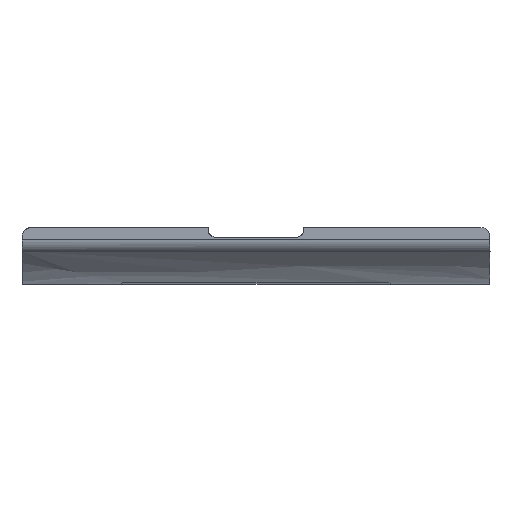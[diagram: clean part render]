
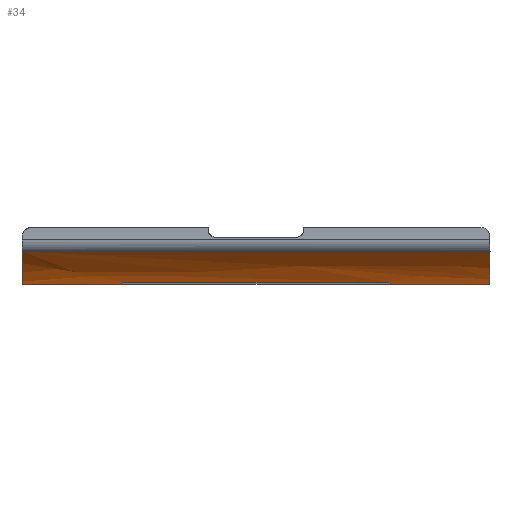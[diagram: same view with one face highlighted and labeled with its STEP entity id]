
A CAD part, front view. The second image highlights one B-rep face of the part: STEP entity #34.
In plain terms, the highlighted free-form (B-spline) face has degree [2, 1] with [9, 2] control points.
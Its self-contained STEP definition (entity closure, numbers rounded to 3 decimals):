
#34=ADVANCED_FACE('',(#132),#1594,.T.);
#132=FACE_OUTER_BOUND('',#230,.T.);
#230=EDGE_LOOP('',(#477,#478,#479,#480,#481,#482,#483,#484,#485,#486,#487));
#477=ORIENTED_EDGE('',*,*,#959,.T.);
#478=ORIENTED_EDGE('',*,*,#1117,.T.);
#479=ORIENTED_EDGE('',*,*,#973,.T.);
#480=ORIENTED_EDGE('',*,*,#943,.F.);
#481=ORIENTED_EDGE('',*,*,#942,.F.);
#482=ORIENTED_EDGE('',*,*,#957,.F.);
#483=ORIENTED_EDGE('',*,*,#960,.F.);
#484=ORIENTED_EDGE('',*,*,#966,.T.);
#485=ORIENTED_EDGE('',*,*,#1121,.T.);
#486=ORIENTED_EDGE('',*,*,#961,.T.);
#487=ORIENTED_EDGE('',*,*,#962,.T.);
#942=EDGE_CURVE('',#1493,#1494,#1284,.T.);
#943=EDGE_CURVE('',#1494,#1489,#1285,.T.);
#957=EDGE_CURVE('',#1490,#1493,#1148,.T.);
#959=EDGE_CURVE('',#1504,#1505,#1298,.T.);
#960=EDGE_CURVE('',#1488,#1490,#1149,.T.);
#961=EDGE_CURVE('',#1508,#1509,#1299,.T.);
#962=EDGE_CURVE('',#1509,#1504,#1150,.T.);
#966=EDGE_CURVE('',#1488,#1507,#1303,.T.);
#973=EDGE_CURVE('',#1506,#1489,#1308,.T.);
#1117=EDGE_CURVE('',#1505,#1506,#1204,.T.);
#1121=EDGE_CURVE('',#1507,#1508,#1206,.T.);
#1148=(
BOUNDED_CURVE()
B_SPLINE_CURVE(1,(#3255,#3256),.UNSPECIFIED.,.F.,.F.)
B_SPLINE_CURVE_WITH_KNOTS((2,2),(-97.8,0.),.UNSPECIFIED.)
CURVE()
GEOMETRIC_REPRESENTATION_ITEM()
RATIONAL_B_SPLINE_CURVE((1.,1.))
REPRESENTATION_ITEM('')
);
#1149=(
BOUNDED_CURVE()
B_SPLINE_CURVE(2,(#3271,#3272,#3273),.UNSPECIFIED.,.F.,.F.)
B_SPLINE_CURVE_WITH_KNOTS((3,3),(-0.026,0.),
 .UNSPECIFIED.)
CURVE()
GEOMETRIC_REPRESENTATION_ITEM()
RATIONAL_B_SPLINE_CURVE((1.,0.965,1.))
REPRESENTATION_ITEM('')
);
#1150=(
BOUNDED_CURVE()
B_SPLINE_CURVE(1,(#3284,#3285),.UNSPECIFIED.,.F.,.F.)
B_SPLINE_CURVE_WITH_KNOTS((2,2),(0.,54.),.UNSPECIFIED.)
CURVE()
GEOMETRIC_REPRESENTATION_ITEM()
RATIONAL_B_SPLINE_CURVE((1.,1.))
REPRESENTATION_ITEM('')
);
#1204=(
BOUNDED_CURVE()
B_SPLINE_CURVE(2,(#3680,#3681,#3682),.UNSPECIFIED.,.F.,.F.)
B_SPLINE_CURVE_WITH_KNOTS((3,3),(0.,5.511),.UNSPECIFIED.)
CURVE()
GEOMETRIC_REPRESENTATION_ITEM()
RATIONAL_B_SPLINE_CURVE((1.,0.998,1.))
REPRESENTATION_ITEM('')
);
#1206=(
BOUNDED_CURVE()
B_SPLINE_CURVE(2,(#3690,#3691,#3692),.UNSPECIFIED.,.F.,.F.)
B_SPLINE_CURVE_WITH_KNOTS((3,3),(0.,5.511),.UNSPECIFIED.)
CURVE()
GEOMETRIC_REPRESENTATION_ITEM()
RATIONAL_B_SPLINE_CURVE((1.,0.998,1.))
REPRESENTATION_ITEM('')
);
#1284=B_SPLINE_CURVE_WITH_KNOTS('',3,(#3201,#3202,#3203,#3204),
 .UNSPECIFIED.,.F.,.F.,(4,4),(0.,0.),.UNSPECIFIED.);
#1285=B_SPLINE_CURVE_WITH_KNOTS('',3,(#3205,#3206,#3207,#3208,#3209,#3210,
#3211,#3212,#3213,#3214),.UNSPECIFIED.,.F.,.F.,(4,2,2,2,4),(-1.,-0.875,
-0.75,-0.5,0.),.UNSPECIFIED.);
#1298=B_SPLINE_CURVE_WITH_KNOTS('',3,(#3261,#3262,#3263,#3264,#3265,#3266,
#3267,#3268,#3269,#3270),.UNSPECIFIED.,.F.,.F.,(4,2,2,2,4),(0.,0.,
0.001,0.001,0.002),
 .UNSPECIFIED.);
#1299=B_SPLINE_CURVE_WITH_KNOTS('',3,(#3274,#3275,#3276,#3277,#3278,#3279,
#3280,#3281,#3282,#3283),.UNSPECIFIED.,.F.,.F.,(4,2,2,2,4),(0.,
0.,0.001,0.001,0.002),
 .UNSPECIFIED.);
#1303=B_SPLINE_CURVE_WITH_KNOTS('',1,(#3292,#3293),.UNSPECIFIED.,.F.,.F.,
(2,2),(-20.8,0.),.UNSPECIFIED.);
#1308=B_SPLINE_CURVE_WITH_KNOTS('',1,(#3310,#3311),.UNSPECIFIED.,.F.,.F.,
(2,2),(-20.8,0.),.UNSPECIFIED.);
#1488=VERTEX_POINT('',#2769);
#1489=VERTEX_POINT('',#2770);
#1490=VERTEX_POINT('',#2771);
#1493=VERTEX_POINT('',#2774);
#1494=VERTEX_POINT('',#2775);
#1504=VERTEX_POINT('',#2785);
#1505=VERTEX_POINT('',#2786);
#1506=VERTEX_POINT('',#2787);
#1507=VERTEX_POINT('',#2788);
#1508=VERTEX_POINT('',#2789);
#1509=VERTEX_POINT('',#2790);
#1594=(
BOUNDED_SURFACE()
B_SPLINE_SURFACE(2,1,((#2152,#2153),(#2154,#2155),(#2156,#2157),(#2158,
#2159),(#2160,#2161),(#2162,#2163),(#2164,#2165),(#2166,#2167),(#2168,#2169)),
 .UNSPECIFIED.,.T.,.F.,.F.)
B_SPLINE_SURFACE_WITH_KNOTS((3,2,2,2,3),(2,2),(0.,77.853,155.705,
233.558,311.41),(0.,117.362),.UNSPECIFIED.)
GEOMETRIC_REPRESENTATION_ITEM()
RATIONAL_B_SPLINE_SURFACE(((1.,1.),(0.707,0.707),
(1.,1.),(0.707,0.707),(1.,1.),(0.707,
0.707),(1.,1.),(0.707,0.707),(1.,1.)))
REPRESENTATION_ITEM('')
SURFACE()
);
#2152=CARTESIAN_POINT('',(58.681,-49.563,33.563));
#2153=CARTESIAN_POINT('',(-58.681,-49.563,33.563));
#2154=CARTESIAN_POINT('',(58.681,-49.563,83.125));
#2155=CARTESIAN_POINT('',(-58.681,-49.563,83.125));
#2156=CARTESIAN_POINT('',(58.681,0.,83.125));
#2157=CARTESIAN_POINT('',(-58.681,0.,83.125));
#2158=CARTESIAN_POINT('',(58.681,49.563,83.125));
#2159=CARTESIAN_POINT('',(-58.681,49.563,83.125));
#2160=CARTESIAN_POINT('',(58.681,49.563,33.563));
#2161=CARTESIAN_POINT('',(-58.681,49.563,33.563));
#2162=CARTESIAN_POINT('',(58.681,49.563,-16.));
#2163=CARTESIAN_POINT('',(-58.681,49.563,-16.));
#2164=CARTESIAN_POINT('',(58.681,0.,-16.));
#2165=CARTESIAN_POINT('',(-58.681,0.,-16.));
#2166=CARTESIAN_POINT('',(58.681,-49.563,-16.));
#2167=CARTESIAN_POINT('',(-58.681,-49.563,-16.));
#2168=CARTESIAN_POINT('',(58.681,-49.563,33.563));
#2169=CARTESIAN_POINT('',(-58.681,-49.563,33.563));
#2769=CARTESIAN_POINT('',(-48.9,0.,-16.));
#2770=CARTESIAN_POINT('',(48.9,0.,-16.001));
#2771=CARTESIAN_POINT('',(-48.9,-25.177,-9.129));
#2774=CARTESIAN_POINT('',(48.9,-25.177,-9.129));
#2775=CARTESIAN_POINT('',(48.9,-25.154,-9.144));
#2785=CARTESIAN_POINT('',(27.,-6.6,-15.559));
#2786=CARTESIAN_POINT('',(28.1,-5.5,-15.694));
#2787=CARTESIAN_POINT('',(28.1,0.,-16.));
#2788=CARTESIAN_POINT('',(-28.1,0.,-16.));
#2789=CARTESIAN_POINT('',(-28.1,-5.5,-15.694));
#2790=CARTESIAN_POINT('',(-27.,-6.6,-15.559));
#3201=CARTESIAN_POINT('',(48.9,-25.177,-9.129));
#3202=CARTESIAN_POINT('',(48.9,-25.169,-9.134));
#3203=CARTESIAN_POINT('',(48.9,-25.162,-9.138));
#3204=CARTESIAN_POINT('',(48.9,-25.154,-9.144));
#3205=CARTESIAN_POINT('',(48.9,-25.154,-9.144));
#3206=CARTESIAN_POINT('',(48.9,-24.207,-9.701));
#3207=CARTESIAN_POINT('',(48.9,-23.243,-10.226));
#3208=CARTESIAN_POINT('',(48.9,-21.277,-11.214));
#3209=CARTESIAN_POINT('',(48.9,-20.28,-11.674));
#3210=CARTESIAN_POINT('',(48.9,-17.241,-12.956));
#3211=CARTESIAN_POINT('',(48.9,-15.158,-13.676));
#3212=CARTESIAN_POINT('',(48.9,-8.795,-15.411));
#3213=CARTESIAN_POINT('',(48.9,-4.398,-16.));
#3214=CARTESIAN_POINT('',(48.9,0.,-16.001));
#3255=CARTESIAN_POINT('',(-48.9,-25.177,-9.129));
#3256=CARTESIAN_POINT('',(48.9,-25.177,-9.129));
#3261=CARTESIAN_POINT('',(27.,-6.6,-15.559));
#3262=CARTESIAN_POINT('',(27.15,-6.6,-15.559));
#3263=CARTESIAN_POINT('',(27.297,-6.569,-15.563));
#3264=CARTESIAN_POINT('',(27.569,-6.453,-15.578));
#3265=CARTESIAN_POINT('',(27.691,-6.368,-15.589));
#3266=CARTESIAN_POINT('',(27.891,-6.161,-15.616));
#3267=CARTESIAN_POINT('',(27.969,-6.039,-15.631));
#3268=CARTESIAN_POINT('',(28.073,-5.779,-15.662));
#3269=CARTESIAN_POINT('',(28.1,-5.639,-15.678));
#3270=CARTESIAN_POINT('',(28.1,-5.5,-15.694));
#3271=CARTESIAN_POINT('',(-48.9,0.,-16.));
#3272=CARTESIAN_POINT('',(-48.9,-13.526,-16.));
#3273=CARTESIAN_POINT('',(-48.9,-25.177,-9.129));
#3274=CARTESIAN_POINT('',(-28.1,-5.5,-15.694));
#3275=CARTESIAN_POINT('',(-28.1,-5.64,-15.678));
#3276=CARTESIAN_POINT('',(-28.074,-5.778,-15.662));
#3277=CARTESIAN_POINT('',(-27.969,-6.039,-15.631));
#3278=CARTESIAN_POINT('',(-27.891,-6.161,-15.616));
#3279=CARTESIAN_POINT('',(-27.691,-6.368,-15.589));
#3280=CARTESIAN_POINT('',(-27.569,-6.453,-15.578));
#3281=CARTESIAN_POINT('',(-27.298,-6.569,-15.563));
#3282=CARTESIAN_POINT('',(-27.149,-6.6,-15.559));
#3283=CARTESIAN_POINT('',(-27.,-6.6,-15.559));
#3284=CARTESIAN_POINT('',(-27.,-6.6,-15.559));
#3285=CARTESIAN_POINT('',(27.,-6.6,-15.559));
#3292=CARTESIAN_POINT('',(-48.9,0.,-16.));
#3293=CARTESIAN_POINT('',(-28.1,0.,-16.));
#3310=CARTESIAN_POINT('',(28.1,0.,-16.));
#3311=CARTESIAN_POINT('',(48.9,0.,-16.));
#3680=CARTESIAN_POINT('',(28.1,-5.5,-15.694));
#3681=CARTESIAN_POINT('',(28.1,-2.759,-16.));
#3682=CARTESIAN_POINT('',(28.1,0.,-16.));
#3690=CARTESIAN_POINT('',(-28.1,0.,-16.));
#3691=CARTESIAN_POINT('',(-28.1,-2.759,-16.));
#3692=CARTESIAN_POINT('',(-28.1,-5.5,-15.694));
